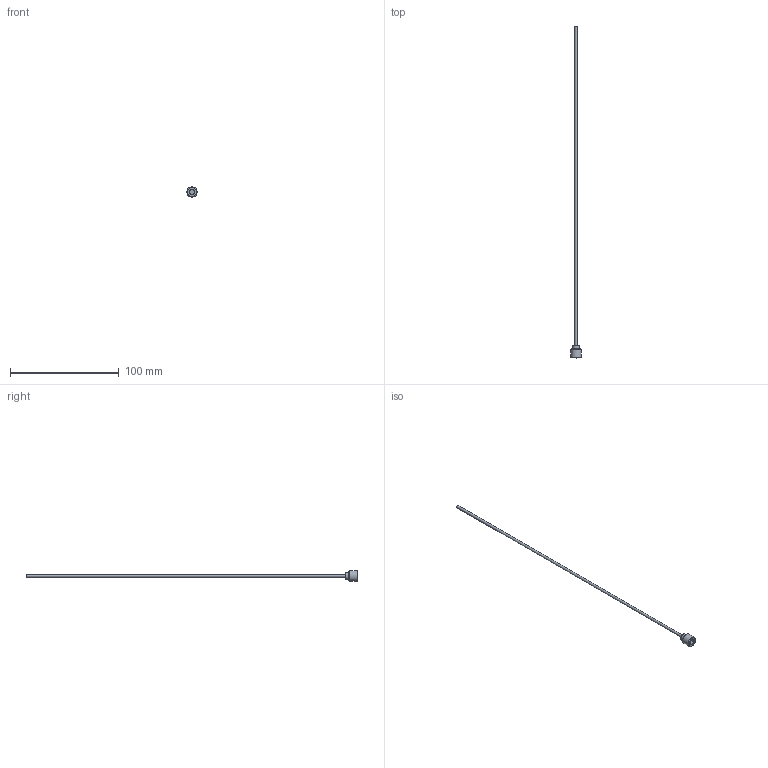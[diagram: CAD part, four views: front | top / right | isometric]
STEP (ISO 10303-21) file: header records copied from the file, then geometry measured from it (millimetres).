
FILE_DESCRIPTION(/* description */ (''),/* implementation_level */ '2;1');
FILE_NAME(/* name */ 'C:/Users/drich/Desktop/DR-125 v3.step',/* time_stamp */ '2020-01-08T16:10:15-06:00',/* author */ (''),/* organization */ (''),/* preprocessor_version */ 'ST-DEVELOPER v18',/* originating_system */ 'Autodesk Translation Framework v8.12.0.6',/* authorisation */ '');
FILE_SCHEMA (('AUTOMOTIVE_DESIGN { 1 0 10303 214 3 1 1 }'));
Length unit declared in the file: inch
Products named in the file (1): DR-125
Bounding box: 9.62 x 304.8 x 9.62 mm (x, y, z)
Volume: 1851.6 mm3; surface area: 2735.6 mm2
Topology: 2 solids, 2 shells, 27 faces, 67 edges, 46 vertices
Faces by surface type: plane 18, cylinder 4, cone 3, torus 2
Full cylindrical faces by diameter (mm): 2.362 x1, 4.724 x1, 6.35 x1, 9.621 x1
Entity records: 852 total; most frequent: CARTESIAN_POINT 165, DIRECTION 141, ORIENTED_EDGE 134, EDGE_CURVE 67, AXIS2_PLACEMENT_3D 58, VERTEX_POINT 46, CIRCLE 30, EDGE_LOOP 29
